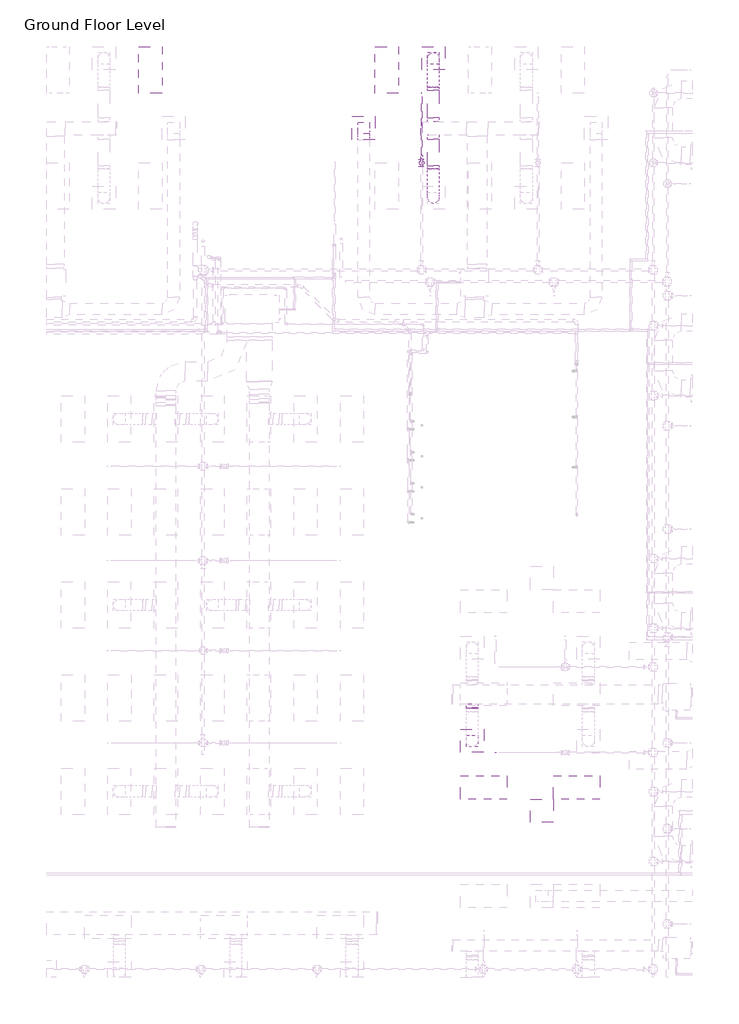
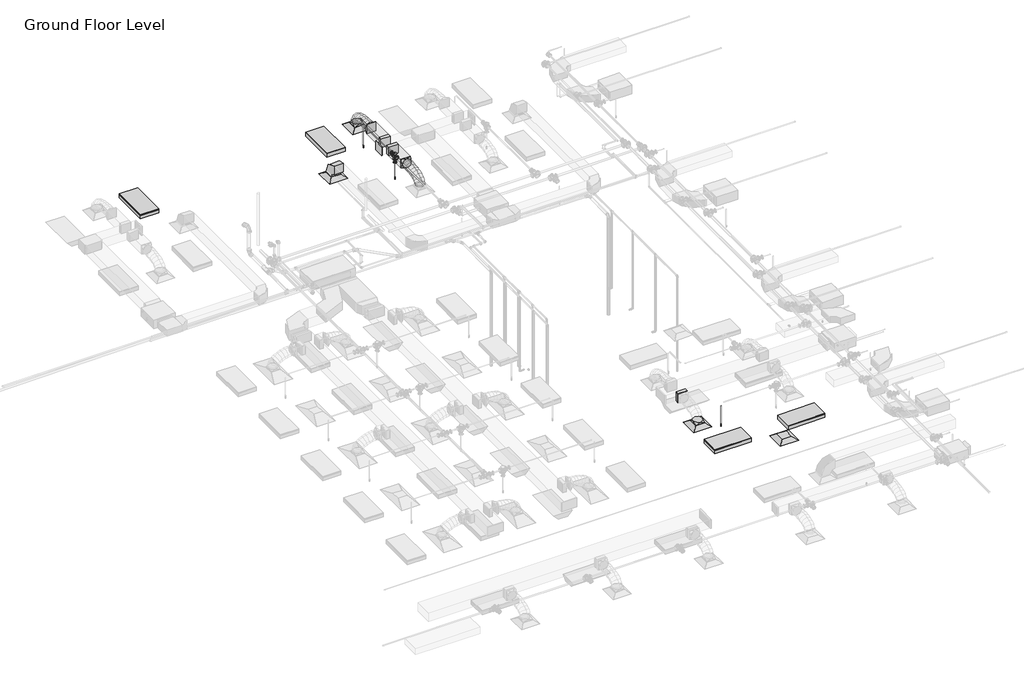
# One storey, part 58 of 74: 9 duct fittings, 6 duct segments, 4 air terminals, 4 light fixtures, 4 pipe segments, 3 fire suppression terminals, 3 pipe fittings.
"""IFC4 building model written with IfcOpenShell, lengths in millimetres."""

from ifc_helpers import new_model, si_unit, point, frame, frame_2d, origin, place, context, project, spatial, polyline, circle_curve, ellipse_curve, trimmed, segment, composite_curve, outline, extrude, transform, mapped, element, save
from ifc_brep_helpers import plane_surface, cylinder_surface, advanced_brep
from components import m_return_diffuser_600_x_600_face_300_x_300_connection_ff221211, m_rectangular_elbow_radius_1_w_618da153, m_rectangular_endcap_standard_eed78c44, m_rectangular_takeoff_standard_cb0ccb98, m_rectangular_takeoff_standard_2be5eba1, m_rectangular_to_round_transition_angle_45_degree_641efff0, m_sprinkler_dry_pendent_hosted_15_mm_dry_pendent_9bda8e11, m_troffer_light_parabolic_rectangular1_0600x1200mm_4_lamp_86473d4a, m_reducer_flanged_cs_class_150_standard_d42b2106, m_tee_round_base_flanged_cs_class_150_standard_7e5987a1

model = new_model("IFC4")

# Units and contexts
model_context = context("Model", 3, world=origin())
ifc_project = project(units=[si_unit("LENGTHUNIT", "METRE", prefix="MILLI")], contexts=[model_context])

# Site, building, storey
site = spatial("IfcSite", under=ifc_project)
building = spatial("IfcBuilding", under=site)
storey = spatial("IfcBuildingStorey", under=building, Name="Ground Floor Level", Elevation=900.0)

# Air terminals
placement = place(None, origin())
m_return_diffuser_600_x_600_face_300_x_300_connection_shape = m_return_diffuser_600_x_600_face_300_x_300_connection_ff221211(model_context)
element("IfcAirTerminal", 1, ObjectType="M_Return Diffuser : 600 x 600 Face 300 x 300 Connection", at=placement, inside=storey, context=model_context, shape_type="MappedRepresentation", body=[
    mapped(m_return_diffuser_600_x_600_face_300_x_300_connection_shape, transform((-1837.2327605, 18735.2153534, 3650.0), x_axis=(1.0, 0.0, 0.0), y_axis=(0.0, 1.0, 0.0), z_axis=(0.0, 0.0, 1.0))),
])
element("IfcAirTerminal", 2, ObjectType="M_Return Diffuser : 600 x 600 Face 300 x 300 Connection", at=placement, inside=storey, context=model_context, shape_type="MappedRepresentation", body=[
    mapped(m_return_diffuser_600_x_600_face_300_x_300_connection_shape, transform((2762.7672395, 1135.2153534, 3650.0), x_axis=(1.0, 0.0, 0.0), y_axis=(0.0, 1.0, 0.0), z_axis=(0.0, 0.0, 1.0))),
])
element("IfcAirTerminal", 3, ObjectType="M_Supply Diffuser : 600 x 600 Face 300 x 300 Connection", at=placement, inside=storey, context=model_context, shape_type="MappedRepresentation", body=[
    mapped(m_return_diffuser_600_x_600_face_300_x_300_connection_shape, transform((-37.2327605, 20535.2153534, 3650.0), x_axis=(1.0, 0.0, 0.0), y_axis=(0.0, 1.0, 0.0), z_axis=(0.0, 0.0, 1.0))),
])
element("IfcAirTerminal", 4, ObjectType="M_Supply Diffuser : 600 x 600 Face 300 x 300 Connection", at=placement, inside=storey, context=model_context, shape_type="MappedRepresentation", body=[
    mapped(m_return_diffuser_600_x_600_face_300_x_300_connection_shape, transform((962.7672395, 2935.2153534, 3650.0), x_axis=(1.0, 0.0, 0.0), y_axis=(0.0, 1.0, 0.0), z_axis=(0.0, 0.0, 1.0))),
])

# Duct fittings
m_rectangular_elbow_radius_1_w_shape = m_rectangular_elbow_radius_1_w_618da153(model_context)
element("IfcDuctFitting", 5, ObjectType="M_Rectangular Elbow - Radius : 1 W", at=placement, inside=storey, context=model_context, shape_type="MappedRepresentation", body=[
    mapped(m_rectangular_elbow_radius_1_w_shape, transform((-1837.2327605, 18735.2153534, 4075.2872564), x_axis=(0.0, 0.0, 1.0), y_axis=(0.0, -1.0, 0.0), z_axis=(1.0, 0.0, 0.0))),
])
m_rectangular_endcap_standard_shape = m_rectangular_endcap_standard_eed78c44(model_context)
element("IfcDuctFitting", 6, ObjectType="M_Rectangular Endcap : Standard", at=placement, inside=storey, context=model_context, shape_type="MappedRepresentation", body=[
    mapped(m_rectangular_endcap_standard_shape, transform((-337.2326293, 18724.6783949, 4099.9983101), x_axis=(-0.9999999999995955, 0.0, -8.994654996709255e-07), y_axis=(0.0, -1.0000000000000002, 0.0), z_axis=(-8.994654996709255e-07, 0.0, 0.9999999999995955))),
])
m_rectangular_takeoff_standard_shape = m_rectangular_takeoff_standard_cb0ccb98(model_context)
element("IfcDuctFitting", 7, ObjectType="M_Rectangular Takeoff : Standard", at=placement, inside=storey, context=model_context, shape_type="MappedRepresentation", body=[
    mapped(m_rectangular_takeoff_standard_shape, transform((-37.2327605, 18549.6783949, 4099.9985799), x_axis=(0.0, -1.0, 0.0), y_axis=(-1.0, 0.0, 0.0), z_axis=(0.0, 0.0, -1.0))),
])
element("IfcDuctFitting", 8, ObjectType="M_Rectangular Takeoff : Standard", at=placement, inside=storey, context=model_context, shape_type="MappedRepresentation", body=[
    mapped(m_rectangular_takeoff_standard_shape, transform((962.7672395, 3885.0199167, 4099.9886676), x_axis=(0.0, -1.0, 0.0), y_axis=(-1.0, 0.0, 0.0), z_axis=(0.0, 0.0, -1.0))),
])
m_rectangular_takeoff_standard_2_shape = m_rectangular_takeoff_standard_2be5eba1(model_context)
element("IfcDuctFitting", 9, ObjectType="M_Rectangular Takeoff : Standard", at=placement, inside=storey, context=model_context, shape_type="MappedRepresentation", body=[
    mapped(m_rectangular_takeoff_standard_2_shape, transform((-37.2327605, 18899.6783949, 4099.9985799), x_axis=(0.0, 1.0, 0.0), y_axis=(1.0, 0.0, 0.0), z_axis=(0.0, 0.0, -1.0))),
])
m_rectangular_to_round_transition_angle_45_degree_shape = m_rectangular_to_round_transition_angle_45_degree_641efff0(model_context)
element("IfcDuctFitting", 10, ObjectType="M_Rectangular to Round Transition - Angle : 45 Degree", at=placement, inside=storey, context=model_context, shape_type="MappedRepresentation", body=[
    mapped(m_rectangular_to_round_transition_angle_45_degree_shape, transform((-37.2327605, 20535.2153534, 3751.6), x_axis=(0.0, 0.0, 1.0), y_axis=(-1.0, 0.0, 0.0), z_axis=(0.0, -1.0, 0.0))),
])
element("IfcDuctFitting", 11, ObjectType="M_Rectangular to Round Transition - Angle : 45 Degree", at=placement, inside=storey, context=model_context, shape_type="MappedRepresentation", body=[
    mapped(m_rectangular_to_round_transition_angle_45_degree_shape, transform((-37.2327605, 19707.878002, 4099.9985799), x_axis=(0.0, 1.0, 0.0), y_axis=(-1.0, 0.0, 0.0), z_axis=(0.0, 0.0, 1.0))),
])
element("IfcDuctFitting", 12, ObjectType="M_Rectangular to Round Transition - Angle : 45 Degree", at=placement, inside=storey, context=model_context, shape_type="MappedRepresentation", body=[
    mapped(m_rectangular_to_round_transition_angle_45_degree_shape, transform((-37.2327605, 17762.5527048, 4099.9985799), x_axis=(0.0, -1.0, 0.0), y_axis=(1.0, 0.0, 0.0), z_axis=(0.0, 0.0, 1.0))),
])
element("IfcDuctFitting", 13, ObjectType="M_Rectangular to Round Transition - Angle : 45 Degree", at=placement, inside=storey, context=model_context, shape_type="MappedRepresentation", body=[
    mapped(m_rectangular_to_round_transition_angle_45_degree_shape, transform((962.7672395, 2935.2153534, 3751.6), x_axis=(0.0, 0.0, 1.0), y_axis=(-1.0, 0.0, 0.0), z_axis=(0.0, -1.0, 0.0))),
])

# Duct segments
element("IfcDuctSegment", 14, ObjectType="Flex - Round", at=placement, inside=storey, context=model_context, shape_type="AdvancedBrep", body=[
    advanced_brep(
    [(112.7672395, 20535.2153534, 3826.6), (-37.2327605, 20385.2153534, 3826.6), (-187.2327605, 20535.2153534, 3826.6), (-37.2327605, 20685.2153534, 3826.6), (112.7672395, 20535.2153534, 3857.9377711), (-37.2327605, 20385.2153534, 3832.2944759), (-187.2327605, 20535.2153534, 3857.9377711), (-37.2327605, 20685.2153534, 3883.5810662), (112.7672395, 20518.1993815, 3906.2505987), (-37.2327605, 20384.461492, 3834.4348871), (-187.2327605, 20518.1993815, 3906.2505987), (-37.2327605, 20651.937271, 3978.0663103), (112.7672395, 20471.0153939, 3968.7112481), (-37.2327605, 20366.8097377, 3857.8017132), (-187.2327605, 20471.0153939, 3968.7112481), (-37.2327605, 20575.2210501, 4079.620783), (112.7672395, 20399.4592831, 4016.0698216), (-37.2327605, 20330.5256105, 3881.8159377), (-187.2327605, 20399.4592831, 4016.0698216), (-37.2327605, 20468.3929557, 4150.3237055), (112.7672395, 20309.3269414, 4050.4141926), (-37.2327605, 20265.7665969, 3906.491959), (-187.2327605, 20309.3269414, 4050.4141926), (-37.2327605, 20352.8872859, 4194.3364261), (112.7672395, 20206.4142611, 4073.8322345), (-37.2327605, 20179.853734, 3926.0416493), (-187.2327605, 20206.4142611, 4073.8322345), (-37.2327605, 20232.9747882, 4221.6228196), (112.7672395, 20096.5171347, 4088.4118207), (-37.2327605, 20081.3665773, 3939.1075232), (-187.2327605, 20096.5171347, 4088.4118207), (-37.2327605, 20111.6676921, 4237.7161183), (112.7672395, 19985.4314545, 4096.2408248), (-37.2327605, 19977.9263947, 3946.3976942), (-187.2327605, 19985.4314545, 4096.2408248), (-37.2327605, 19992.9365143, 4246.0839553), (112.7672395, 19878.9531128, 4099.40712), (-37.2327605, 19876.2617774, 3949.4208461), (-187.2327605, 19878.9531128, 4099.40712), (-37.2327605, 19881.6444482, 4249.393394), (112.7672395, 19782.878002, 4099.9985799), (-37.2327605, 19783.8014181, 4249.9957376), (-187.2327605, 19782.878002, 4099.9985799), (-37.2327605, 19781.9545859, 3950.0014223)],
    [
        (0, 1, circle_curve(frame((-37.2327605, 20535.2153534, 3826.6), z_axis=(0.0, 0.0, -1.0), x_axis=(1.0, 0.0, 0.0)), 150.0)),
        (1, 2, circle_curve(frame((-37.2327605, 20535.2153534, 3826.6), z_axis=(0.0, 0.0, -1.0), x_axis=(1.0, 0.0, 0.0)), 150.0)),
        (2, 3, circle_curve(frame((-37.2327605, 20535.2153534, 3826.6), z_axis=(0.0, 0.0, -1.0), x_axis=(1.0, 0.0, 0.0)), 150.0)),
        (3, 0, circle_curve(frame((-37.2327605, 20535.2153534, 3826.6), z_axis=(0.0, 0.0, -1.0), x_axis=(1.0, 0.0, 0.0)), 150.0)),
        (0, 4),
        (4, 5, ellipse_curve(frame((-37.2327605, 20535.2153534, 3857.9377711), z_axis=(0.0, 0.1685106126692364, -0.9856998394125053), x_axis=(0.0, -0.9856998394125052, -0.16851061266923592)), 152.1761433, 150.0)),
        (5, 1),
        (5, 6, ellipse_curve(frame((-37.2327605, 20535.2153534, 3857.9377711), z_axis=(0.0, 0.1685106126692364, -0.9856998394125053), x_axis=(0.0, -0.9856998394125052, -0.16851061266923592)), 152.1761433, 150.0)),
        (6, 2),
        (6, 7, ellipse_curve(frame((-37.2327605, 20535.2153534, 3857.9377711), z_axis=(0.0, 0.1685106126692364, -0.9856998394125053), x_axis=(0.0, -0.9856998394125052, -0.16851061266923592)), 152.1761433, 150.0)),
        (7, 3),
        (7, 4, ellipse_curve(frame((-37.2327605, 20535.2153534, 3857.9377711), z_axis=(0.0, 0.1685106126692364, -0.9856998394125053), x_axis=(0.0, -0.9856998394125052, -0.16851061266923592)), 152.1761433, 150.0)),
        (4, 8),
        (8, 9, ellipse_curve(frame((-37.2327605, 20518.1993815, 3906.2505987), z_axis=(0.0, 0.4730934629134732, -0.8810122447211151), x_axis=(0.0, -0.8810122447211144, -0.47309346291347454)), 151.8002619, 150.0)),
        (9, 5),
        (9, 10, ellipse_curve(frame((-37.2327605, 20518.1993815, 3906.2505987), z_axis=(0.0, 0.4730934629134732, -0.8810122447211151), x_axis=(0.0, -0.8810122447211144, -0.47309346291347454)), 151.8002619, 150.0)),
        (10, 6),
        (10, 11, ellipse_curve(frame((-37.2327605, 20518.1993815, 3906.2505987), z_axis=(0.0, 0.4730934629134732, -0.8810122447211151), x_axis=(0.0, -0.8810122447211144, -0.47309346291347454)), 151.8002619, 150.0)),
        (11, 7),
        (11, 8, ellipse_curve(frame((-37.2327605, 20518.1993815, 3906.2505987), z_axis=(0.0, 0.4730934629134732, -0.8810122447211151), x_axis=(0.0, -0.8810122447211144, -0.47309346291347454)), 151.8002619, 150.0)),
        (8, 12),
        (12, 13, ellipse_curve(frame((-37.2327605, 20471.0153939, 3968.7112481), z_axis=(0.0, 0.7287893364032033, -0.6847379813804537), x_axis=(0.0, -0.6847379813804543, -0.7287893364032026)), 152.183257, 150.0)),
        (13, 9),
        (13, 14, ellipse_curve(frame((-37.2327605, 20471.0153939, 3968.7112481), z_axis=(0.0, 0.7287893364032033, -0.6847379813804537), x_axis=(0.0, -0.6847379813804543, -0.7287893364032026)), 152.183257, 150.0)),
        (14, 10),
        (14, 15, ellipse_curve(frame((-37.2327605, 20471.0153939, 3968.7112481), z_axis=(0.0, 0.7287893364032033, -0.6847379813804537), x_axis=(0.0, -0.6847379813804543, -0.7287893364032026)), 152.183257, 150.0)),
        (15, 11),
        (15, 12, ellipse_curve(frame((-37.2327605, 20471.0153939, 3968.7112481), z_axis=(0.0, 0.7287893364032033, -0.6847379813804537), x_axis=(0.0, -0.6847379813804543, -0.7287893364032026)), 152.183257, 150.0)),
        (12, 16),
        (16, 17, ellipse_curve(frame((-37.2327605, 20399.4592831, 4016.0698216), z_axis=(0.0, 0.8895872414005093, -0.4567653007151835), x_axis=(0.0, -0.45676530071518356, -0.8895872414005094)), 150.9170519, 150.0)),
        (17, 13),
        (17, 18, ellipse_curve(frame((-37.2327605, 20399.4592831, 4016.0698216), z_axis=(0.0, 0.8895872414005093, -0.4567653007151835), x_axis=(0.0, -0.45676530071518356, -0.8895872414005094)), 150.9170519, 150.0)),
        (18, 14),
        (18, 19, ellipse_curve(frame((-37.2327605, 20399.4592831, 4016.0698216), z_axis=(0.0, 0.8895872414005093, -0.4567653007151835), x_axis=(0.0, -0.45676530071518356, -0.8895872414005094)), 150.9170519, 150.0)),
        (19, 15),
        (19, 16, ellipse_curve(frame((-37.2327605, 20399.4592831, 4016.0698216), z_axis=(0.0, 0.8895872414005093, -0.4567653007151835), x_axis=(0.0, -0.45676530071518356, -0.8895872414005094)), 150.9170519, 150.0)),
        (16, 20),
        (20, 21, ellipse_curve(frame((-37.2327605, 20309.3269414, 4050.4141926), z_axis=(0.0, 0.9571211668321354, -0.2896878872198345), x_axis=(0.0, -0.2896878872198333, -0.9571211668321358)), 150.3699202, 150.0)),
        (21, 17),
        (21, 22, ellipse_curve(frame((-37.2327605, 20309.3269414, 4050.4141926), z_axis=(0.0, 0.9571211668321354, -0.2896878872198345), x_axis=(0.0, -0.2896878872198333, -0.9571211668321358)), 150.3699202, 150.0)),
        (22, 18),
        (22, 23, ellipse_curve(frame((-37.2327605, 20309.3269414, 4050.4141926), z_axis=(0.0, 0.9571211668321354, -0.2896878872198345), x_axis=(0.0, -0.2896878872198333, -0.9571211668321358)), 150.3699202, 150.0)),
        (23, 19),
        (23, 20, ellipse_curve(frame((-37.2327605, 20309.3269414, 4050.4141926), z_axis=(0.0, 0.9571211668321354, -0.2896878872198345), x_axis=(0.0, -0.2896878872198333, -0.9571211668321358)), 150.3699202, 150.0)),
        (20, 24),
        (24, 25, ellipse_curve(frame((-37.2327605, 20206.4142611, 4073.8322345), z_axis=(0.0, 0.9842317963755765, -0.17688349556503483), x_axis=(0.0, -0.1768834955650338, -0.9842317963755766)), 150.158312, 150.0)),
        (25, 21),
        (25, 26, ellipse_curve(frame((-37.2327605, 20206.4142611, 4073.8322345), z_axis=(0.0, 0.9842317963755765, -0.17688349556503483), x_axis=(0.0, -0.1768834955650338, -0.9842317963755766)), 150.158312, 150.0)),
        (26, 22),
        (26, 27, ellipse_curve(frame((-37.2327605, 20206.4142611, 4073.8322345), z_axis=(0.0, 0.9842317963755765, -0.17688349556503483), x_axis=(0.0, -0.1768834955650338, -0.9842317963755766)), 150.158312, 150.0)),
        (27, 23),
        (27, 24, ellipse_curve(frame((-37.2327605, 20206.4142611, 4073.8322345), z_axis=(0.0, 0.9842317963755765, -0.17688349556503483), x_axis=(0.0, -0.1768834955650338, -0.9842317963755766)), 150.158312, 150.0)),
        (24, 28),
        (28, 29, ellipse_curve(frame((-37.2327605, 20096.5171347, 4088.4118207), z_axis=(0.0, 0.9948909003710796, -0.10095591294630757), x_axis=(0.0, -0.10095591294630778, -0.9948909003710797)), 150.0710253, 150.0)),
        (29, 25),
        (29, 30, ellipse_curve(frame((-37.2327605, 20096.5171347, 4088.4118207), z_axis=(0.0, 0.9948909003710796, -0.10095591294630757), x_axis=(0.0, -0.10095591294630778, -0.9948909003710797)), 150.0710253, 150.0)),
        (30, 26),
        (30, 31, ellipse_curve(frame((-37.2327605, 20096.5171347, 4088.4118207), z_axis=(0.0, 0.9948909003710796, -0.10095591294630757), x_axis=(0.0, -0.10095591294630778, -0.9948909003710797)), 150.0710253, 150.0)),
        (31, 27),
        (31, 28, ellipse_curve(frame((-37.2327605, 20096.5171347, 4088.4118207), z_axis=(0.0, 0.9948909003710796, -0.10095591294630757), x_axis=(0.0, -0.10095591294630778, -0.9948909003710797)), 150.0710253, 150.0)),
        (28, 32),
        (32, 33, ellipse_curve(frame((-37.2327605, 19985.4314545, 4096.2408248), z_axis=(0.0, 0.9987480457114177, -0.05002340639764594), x_axis=(0.0, -0.05002340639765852, -0.9987480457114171)), 150.0309624, 150.0)),
        (33, 29),
        (33, 34, ellipse_curve(frame((-37.2327605, 19985.4314545, 4096.2408248), z_axis=(0.0, 0.9987480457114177, -0.05002340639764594), x_axis=(0.0, -0.05002340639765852, -0.9987480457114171)), 150.0309624, 150.0)),
        (34, 30),
        (34, 35, ellipse_curve(frame((-37.2327605, 19985.4314545, 4096.2408248), z_axis=(0.0, 0.9987480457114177, -0.05002340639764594), x_axis=(0.0, -0.05002340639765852, -0.9987480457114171)), 150.0309624, 150.0)),
        (35, 31),
        (35, 32, ellipse_curve(frame((-37.2327605, 19985.4314545, 4096.2408248), z_axis=(0.0, 0.9987480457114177, -0.05002340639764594), x_axis=(0.0, -0.05002340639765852, -0.9987480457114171)), 150.0309624, 150.0)),
        (32, 36),
        (36, 37, ellipse_curve(frame((-37.2327605, 19878.9531128, 4099.40712), z_axis=(0.0, 0.9998390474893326, -0.01794098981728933), x_axis=(0.0, -0.017940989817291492, -0.9998390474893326)), 150.0104185, 150.0)),
        (37, 33),
        (37, 38, ellipse_curve(frame((-37.2327605, 19878.9531128, 4099.40712), z_axis=(0.0, 0.9998390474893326, -0.01794098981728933), x_axis=(0.0, -0.017940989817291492, -0.9998390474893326)), 150.0104185, 150.0)),
        (38, 34),
        (38, 39, ellipse_curve(frame((-37.2327605, 19878.9531128, 4099.40712), z_axis=(0.0, 0.9998390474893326, -0.01794098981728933), x_axis=(0.0, -0.017940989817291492, -0.9998390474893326)), 150.0104185, 150.0)),
        (39, 35),
        (39, 36, ellipse_curve(frame((-37.2327605, 19878.9531128, 4099.40712), z_axis=(0.0, 0.9998390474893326, -0.01794098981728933), x_axis=(0.0, -0.017940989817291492, -0.9998390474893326)), 150.0104185, 150.0)),
        (40, 41, circle_curve(frame((-37.2327605, 19782.878002, 4099.9985799), z_axis=(0.0, -0.9999810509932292, 0.006156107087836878), x_axis=(1.0, 0.0, 0.0)), 150.0)),
        (41, 42, circle_curve(frame((-37.2327605, 19782.878002, 4099.9985799), z_axis=(0.0, -0.9999810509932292, 0.006156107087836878), x_axis=(1.0, 0.0, 0.0)), 150.0)),
        (42, 43, circle_curve(frame((-37.2327605, 19782.878002, 4099.9985799), z_axis=(0.0, -0.9999810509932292, 0.006156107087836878), x_axis=(1.0, 0.0, 0.0)), 150.0)),
        (43, 40, circle_curve(frame((-37.2327605, 19782.878002, 4099.9985799), z_axis=(0.0, -0.9999810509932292, 0.006156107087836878), x_axis=(1.0, 0.0, 0.0)), 150.0)),
        (36, 40),
        (43, 37),
        (42, 38),
        (41, 39),
    ],
    [
        plane_surface(frame((-37.2327605, 20385.2153534, 3826.6), z_axis=(0.0, 0.0, -1.0), x_axis=(1.0, 0.0, 0.0))),
        cylinder_surface(frame((-37.2327605, 20535.2153534, 3826.6), z_axis=(0.0, 0.0, -1.0), x_axis=(1.0, 0.0, 0.0)), 150.0),
        cylinder_surface(frame((-37.2327605, 20535.2153534, 3857.9377711), z_axis=(0.0, 0.33220176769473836, -0.9432083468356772), x_axis=(1.0, 0.0, 0.0)), 150.0),
        cylinder_surface(frame((-37.2327605, 20518.1993815, 3906.2505987), z_axis=(0.0, 0.6027639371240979, -0.7979195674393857), x_axis=(1.0, 0.0, 0.0)), 150.0),
        cylinder_surface(frame((-37.2327605, 20471.0153939, 3968.7112481), z_axis=(0.0, 0.8339039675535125, -0.551909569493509), x_axis=(1.0, 0.0, 0.0)), 150.0),
        cylinder_surface(frame((-37.2327605, 20399.4592831, 4016.0698216), z_axis=(0.0, 0.934459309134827, -0.35606993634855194), x_axis=(1.0, 0.0, 0.0)), 150.0),
        cylinder_surface(frame((-37.2327605, 20309.3269414, 4050.4141926), z_axis=(0.0, 0.9750738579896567, -0.22188053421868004), x_axis=(1.0, 0.0, 0.0)), 150.0),
        cylinder_surface(frame((-37.2327605, 20206.4142611, 4073.8322345), z_axis=(0.0, 0.9913143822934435, -0.13151348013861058), x_axis=(1.0, 0.0, 0.0)), 150.0),
        cylinder_surface(frame((-37.2327605, 20096.5171347, 4088.4118207), z_axis=(0.0, 0.997525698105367, -0.07030278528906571), x_axis=(1.0, 0.0, 0.0)), 150.0),
        cylinder_surface(frame((-37.2327605, 19985.4314545, 4096.2408248), z_axis=(0.0, 0.9995581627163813, -0.029723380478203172), x_axis=(1.0, 0.0, 0.0)), 150.0),
        plane_surface(frame((-37.2327605, 19781.9545859, 3950.0014223), z_axis=(0.0, -0.9999810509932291, 0.006156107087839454), x_axis=(1.0, 0.0, 0.0))),
        cylinder_surface(frame((-37.2327605, 19878.9531128, 4099.40712), z_axis=(0.0, 0.9999810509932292, -0.006156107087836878), x_axis=(1.0, 0.0, 0.0)), 150.0),
    ],
    [
        (0, [[1, 2, 3, 4]]),
        (1, [[-1, 5, 6, 7]]),
        (1, [[-2, -7, 8, 9]]),
        (1, [[-3, -9, 10, 11]]),
        (1, [[-4, -11, 12, -5]]),
        (2, [[-6, 13, 14, 15]]),
        (2, [[-8, -15, 16, 17]]),
        (2, [[-10, -17, 18, 19]]),
        (2, [[-12, -19, 20, -13]]),
        (3, [[-14, 21, 22, 23]]),
        (3, [[-16, -23, 24, 25]]),
        (3, [[-18, -25, 26, 27]]),
        (3, [[-20, -27, 28, -21]]),
        (4, [[-22, 29, 30, 31]]),
        (4, [[-24, -31, 32, 33]]),
        (4, [[-26, -33, 34, 35]]),
        (4, [[-28, -35, 36, -29]]),
        (5, [[-30, 37, 38, 39]]),
        (5, [[-32, -39, 40, 41]]),
        (5, [[-34, -41, 42, 43]]),
        (5, [[-36, -43, 44, -37]]),
        (6, [[-38, 45, 46, 47]]),
        (6, [[-40, -47, 48, 49]]),
        (6, [[-42, -49, 50, 51]]),
        (6, [[-44, -51, 52, -45]]),
        (7, [[-46, 53, 54, 55]]),
        (7, [[-48, -55, 56, 57]]),
        (7, [[-50, -57, 58, 59]]),
        (7, [[-52, -59, 60, -53]]),
        (8, [[-54, 61, 62, 63]]),
        (8, [[-56, -63, 64, 65]]),
        (8, [[-58, -65, 66, 67]]),
        (8, [[-60, -67, 68, -61]]),
        (9, [[-62, 69, 70, 71]]),
        (9, [[-64, -71, 72, 73]]),
        (9, [[-66, -73, 74, 75]]),
        (9, [[-68, -75, 76, -69]]),
        (10, [[77, 78, 79, 80]]),
        (11, [[-70, 81, -80, 82]]),
        (11, [[-72, -82, -79, 83]]),
        (11, [[-74, -83, -78, 84]]),
        (11, [[-76, -84, -77, -81]]),
    ],
),
])
element("IfcDuctSegment", 15, ObjectType="Flex - Round", at=placement, inside=storey, context=model_context, shape_type="AdvancedBrep", body=[
    advanced_brep(
    [(112.7672395, 16935.2153534, 3826.6), (-37.2327605, 16785.2153534, 3826.6), (-187.2327605, 16935.2153534, 3826.6), (-37.2327605, 17085.2153534, 3826.6), (112.7672395, 16935.2153534, 3857.9377711), (-37.2327605, 16785.2153534, 3883.5810662), (-187.2327605, 16935.2153534, 3857.9377711), (-37.2327605, 17085.2153534, 3832.2944759), (112.7672395, 16952.2313253, 3906.2505987), (-37.2327605, 16818.4934358, 3978.0663103), (-187.2327605, 16952.2313253, 3906.2505987), (-37.2327605, 17085.9692148, 3834.4348871), (112.7672395, 16999.4153129, 3968.7112481), (-37.2327605, 16895.2096567, 4079.620783), (-187.2327605, 16999.4153129, 3968.7112481), (-37.2327605, 17103.620969, 3857.8017132), (112.7672395, 17070.9714237, 4016.0698216), (-37.2327605, 17002.0377511, 4150.3237055), (-187.2327605, 17070.9714237, 4016.0698216), (-37.2327605, 17139.9050963, 3881.8159377), (112.7672395, 17161.1037654, 4050.4141926), (-37.2327605, 17117.5434209, 4194.3364261), (-187.2327605, 17161.1037654, 4050.4141926), (-37.2327605, 17204.6641099, 3906.491959), (112.7672395, 17264.0164456, 4073.8322345), (-37.2327605, 17237.4559185, 4221.6228196), (-187.2327605, 17264.0164456, 4073.8322345), (-37.2327605, 17290.5769728, 3926.0416493), (112.7672395, 17373.9135721, 4088.4118207), (-37.2327605, 17358.7630147, 4237.7161183), (-187.2327605, 17373.9135721, 4088.4118207), (-37.2327605, 17389.0641294, 3939.1075232), (112.7672395, 17484.9992523, 4096.2408248), (-37.2327605, 17477.4941925, 4246.0839553), (-187.2327605, 17484.9992523, 4096.2408248), (-37.2327605, 17492.5043121, 3946.3976942), (112.7672395, 17591.477594, 4099.40712), (-37.2327605, 17588.7862586, 4249.393394), (-187.2327605, 17591.477594, 4099.40712), (-37.2327605, 17594.1689294, 3949.4208461), (112.7672395, 17687.5527048, 4099.9985799), (-37.2327605, 17688.4761208, 3950.0014223), (-187.2327605, 17687.5527048, 4099.9985799), (-37.2327605, 17686.6292887, 4249.9957376)],
    [
        (0, 1, circle_curve(frame((-37.2327605, 16935.2153534, 3826.6), z_axis=(0.0, 0.0, -1.0), x_axis=(1.0, 0.0, 0.0)), 150.0)),
        (1, 2, circle_curve(frame((-37.2327605, 16935.2153534, 3826.6), z_axis=(0.0, 0.0, -1.0), x_axis=(1.0, 0.0, 0.0)), 150.0)),
        (2, 3, circle_curve(frame((-37.2327605, 16935.2153534, 3826.6), z_axis=(0.0, 0.0, -1.0), x_axis=(1.0, 0.0, 0.0)), 150.0)),
        (3, 0, circle_curve(frame((-37.2327605, 16935.2153534, 3826.6), z_axis=(0.0, 0.0, -1.0), x_axis=(1.0, 0.0, 0.0)), 150.0)),
        (0, 4),
        (4, 5, ellipse_curve(frame((-37.2327605, 16935.2153534, 3857.9377711), z_axis=(0.0, -0.1685106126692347, -0.9856998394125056), x_axis=(0.0, 0.9856998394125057, -0.16851061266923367)), 152.1761433, 150.0)),
        (5, 1),
        (5, 6, ellipse_curve(frame((-37.2327605, 16935.2153534, 3857.9377711), z_axis=(0.0, -0.1685106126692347, -0.9856998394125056), x_axis=(0.0, 0.9856998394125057, -0.16851061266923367)), 152.1761433, 150.0)),
        (6, 2),
        (6, 7, ellipse_curve(frame((-37.2327605, 16935.2153534, 3857.9377711), z_axis=(0.0, -0.1685106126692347, -0.9856998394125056), x_axis=(0.0, 0.9856998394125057, -0.16851061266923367)), 152.1761433, 150.0)),
        (7, 3),
        (7, 4, ellipse_curve(frame((-37.2327605, 16935.2153534, 3857.9377711), z_axis=(0.0, -0.1685106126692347, -0.9856998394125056), x_axis=(0.0, 0.9856998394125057, -0.16851061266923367)), 152.1761433, 150.0)),
        (4, 8),
        (8, 9, ellipse_curve(frame((-37.2327605, 16952.2313253, 3906.2505987), z_axis=(0.0, -0.4730934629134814, -0.8810122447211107), x_axis=(0.0, 0.8810122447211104, -0.473093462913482)), 151.8002619, 150.0)),
        (9, 5),
        (9, 10, ellipse_curve(frame((-37.2327605, 16952.2313253, 3906.2505987), z_axis=(0.0, -0.4730934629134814, -0.8810122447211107), x_axis=(0.0, 0.8810122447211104, -0.473093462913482)), 151.8002619, 150.0)),
        (10, 6),
        (10, 11, ellipse_curve(frame((-37.2327605, 16952.2313253, 3906.2505987), z_axis=(0.0, -0.4730934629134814, -0.8810122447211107), x_axis=(0.0, 0.8810122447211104, -0.473093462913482)), 151.8002619, 150.0)),
        (11, 7),
        (11, 8, ellipse_curve(frame((-37.2327605, 16952.2313253, 3906.2505987), z_axis=(0.0, -0.4730934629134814, -0.8810122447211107), x_axis=(0.0, 0.8810122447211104, -0.473093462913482)), 151.8002619, 150.0)),
        (8, 12),
        (12, 13, ellipse_curve(frame((-37.2327605, 16999.4153129, 3968.7112481), z_axis=(0.0, -0.728789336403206, -0.6847379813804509), x_axis=(0.0, 0.6847379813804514, -0.7287893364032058)), 152.183257, 150.0)),
        (13, 9),
        (13, 14, ellipse_curve(frame((-37.2327605, 16999.4153129, 3968.7112481), z_axis=(0.0, -0.728789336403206, -0.6847379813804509), x_axis=(0.0, 0.6847379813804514, -0.7287893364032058)), 152.183257, 150.0)),
        (14, 10),
        (14, 15, ellipse_curve(frame((-37.2327605, 16999.4153129, 3968.7112481), z_axis=(0.0, -0.728789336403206, -0.6847379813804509), x_axis=(0.0, 0.6847379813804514, -0.7287893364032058)), 152.183257, 150.0)),
        (15, 11),
        (15, 12, ellipse_curve(frame((-37.2327605, 16999.4153129, 3968.7112481), z_axis=(0.0, -0.728789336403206, -0.6847379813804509), x_axis=(0.0, 0.6847379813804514, -0.7287893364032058)), 152.183257, 150.0)),
        (12, 16),
        (16, 17, ellipse_curve(frame((-37.2327605, 17070.9714237, 4016.0698216), z_axis=(0.0, -0.8895872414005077, -0.45676530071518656), x_axis=(0.0, 0.456765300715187, -0.8895872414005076)), 150.9170519, 150.0)),
        (17, 13),
        (17, 18, ellipse_curve(frame((-37.2327605, 17070.9714237, 4016.0698216), z_axis=(0.0, -0.8895872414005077, -0.45676530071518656), x_axis=(0.0, 0.456765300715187, -0.8895872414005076)), 150.9170519, 150.0)),
        (18, 14),
        (18, 19, ellipse_curve(frame((-37.2327605, 17070.9714237, 4016.0698216), z_axis=(0.0, -0.8895872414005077, -0.45676530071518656), x_axis=(0.0, 0.456765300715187, -0.8895872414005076)), 150.9170519, 150.0)),
        (19, 15),
        (19, 16, ellipse_curve(frame((-37.2327605, 17070.9714237, 4016.0698216), z_axis=(0.0, -0.8895872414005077, -0.45676530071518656), x_axis=(0.0, 0.456765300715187, -0.8895872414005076)), 150.9170519, 150.0)),
        (16, 20),
        (20, 21, ellipse_curve(frame((-37.2327605, 17161.1037654, 4050.4141926), z_axis=(0.0, -0.9571211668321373, -0.2896878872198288), x_axis=(0.0, 0.28968788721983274, -0.9571211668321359)), 150.3699202, 150.0)),
        (21, 17),
        (21, 22, ellipse_curve(frame((-37.2327605, 17161.1037654, 4050.4141926), z_axis=(0.0, -0.9571211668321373, -0.2896878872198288), x_axis=(0.0, 0.28968788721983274, -0.9571211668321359)), 150.3699202, 150.0)),
        (22, 18),
        (22, 23, ellipse_curve(frame((-37.2327605, 17161.1037654, 4050.4141926), z_axis=(0.0, -0.9571211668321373, -0.2896878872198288), x_axis=(0.0, 0.28968788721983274, -0.9571211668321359)), 150.3699202, 150.0)),
        (23, 19),
        (23, 20, ellipse_curve(frame((-37.2327605, 17161.1037654, 4050.4141926), z_axis=(0.0, -0.9571211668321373, -0.2896878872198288), x_axis=(0.0, 0.28968788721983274, -0.9571211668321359)), 150.3699202, 150.0)),
        (20, 24),
        (24, 25, ellipse_curve(frame((-37.2327605, 17264.0164456, 4073.8322345), z_axis=(0.0, -0.9842317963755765, -0.17688349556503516), x_axis=(0.0, 0.1768834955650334, -0.9842317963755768)), 150.158312, 150.0)),
        (25, 21),
        (25, 26, ellipse_curve(frame((-37.2327605, 17264.0164456, 4073.8322345), z_axis=(0.0, -0.9842317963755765, -0.17688349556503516), x_axis=(0.0, 0.1768834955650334, -0.9842317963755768)), 150.158312, 150.0)),
        (26, 22),
        (26, 27, ellipse_curve(frame((-37.2327605, 17264.0164456, 4073.8322345), z_axis=(0.0, -0.9842317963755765, -0.17688349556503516), x_axis=(0.0, 0.1768834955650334, -0.9842317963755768)), 150.158312, 150.0)),
        (27, 23),
        (27, 24, ellipse_curve(frame((-37.2327605, 17264.0164456, 4073.8322345), z_axis=(0.0, -0.9842317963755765, -0.17688349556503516), x_axis=(0.0, 0.1768834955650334, -0.9842317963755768)), 150.158312, 150.0)),
        (24, 28),
        (28, 29, ellipse_curve(frame((-37.2327605, 17373.9135721, 4088.4118207), z_axis=(0.0, -0.9948909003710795, -0.10095591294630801), x_axis=(0.0, 0.10095591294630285, -0.9948909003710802)), 150.0710253, 150.0)),
        (29, 25),
        (29, 30, ellipse_curve(frame((-37.2327605, 17373.9135721, 4088.4118207), z_axis=(0.0, -0.9948909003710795, -0.10095591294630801), x_axis=(0.0, 0.10095591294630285, -0.9948909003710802)), 150.0710253, 150.0)),
        (30, 26),
        (30, 31, ellipse_curve(frame((-37.2327605, 17373.9135721, 4088.4118207), z_axis=(0.0, -0.9948909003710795, -0.10095591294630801), x_axis=(0.0, 0.10095591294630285, -0.9948909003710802)), 150.0710253, 150.0)),
        (31, 27),
        (31, 28, ellipse_curve(frame((-37.2327605, 17373.9135721, 4088.4118207), z_axis=(0.0, -0.9948909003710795, -0.10095591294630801), x_axis=(0.0, 0.10095591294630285, -0.9948909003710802)), 150.0710253, 150.0)),
        (28, 32),
        (32, 33, ellipse_curve(frame((-37.2327605, 17484.9992523, 4096.2408248), z_axis=(0.0, -0.998748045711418, -0.05002340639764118), x_axis=(0.0, 0.050023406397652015, -0.9987480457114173)), 150.0309624, 150.0)),
        (33, 29),
        (33, 34, ellipse_curve(frame((-37.2327605, 17484.9992523, 4096.2408248), z_axis=(0.0, -0.998748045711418, -0.05002340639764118), x_axis=(0.0, 0.050023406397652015, -0.9987480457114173)), 150.0309624, 150.0)),
        (34, 30),
        (34, 35, ellipse_curve(frame((-37.2327605, 17484.9992523, 4096.2408248), z_axis=(0.0, -0.998748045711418, -0.05002340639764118), x_axis=(0.0, 0.050023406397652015, -0.9987480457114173)), 150.0309624, 150.0)),
        (35, 31),
        (35, 32, ellipse_curve(frame((-37.2327605, 17484.9992523, 4096.2408248), z_axis=(0.0, -0.998748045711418, -0.05002340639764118), x_axis=(0.0, 0.050023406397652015, -0.9987480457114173)), 150.0309624, 150.0)),
        (32, 36),
        (36, 37, ellipse_curve(frame((-37.2327605, 17591.477594, 4099.40712), z_axis=(0.0, -0.9998390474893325, -0.017940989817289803), x_axis=(0.0, 0.017940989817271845, -0.9998390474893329)), 150.0104185, 150.0)),
        (37, 33),
        (37, 38, ellipse_curve(frame((-37.2327605, 17591.477594, 4099.40712), z_axis=(0.0, -0.9998390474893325, -0.017940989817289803), x_axis=(0.0, 0.017940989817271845, -0.9998390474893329)), 150.0104185, 150.0)),
        (38, 34),
        (38, 39, ellipse_curve(frame((-37.2327605, 17591.477594, 4099.40712), z_axis=(0.0, -0.9998390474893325, -0.017940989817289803), x_axis=(0.0, 0.017940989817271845, -0.9998390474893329)), 150.0104185, 150.0)),
        (39, 35),
        (39, 36, ellipse_curve(frame((-37.2327605, 17591.477594, 4099.40712), z_axis=(0.0, -0.9998390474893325, -0.017940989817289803), x_axis=(0.0, 0.017940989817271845, -0.9998390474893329)), 150.0104185, 150.0)),
        (40, 41, circle_curve(frame((-37.2327605, 17687.5527048, 4099.9985799), z_axis=(0.0, 0.9999810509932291, 0.006156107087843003), x_axis=(1.0, 0.0, 0.0)), 150.0)),
        (41, 42, circle_curve(frame((-37.2327605, 17687.5527048, 4099.9985799), z_axis=(0.0, 0.9999810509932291, 0.006156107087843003), x_axis=(1.0, 0.0, 0.0)), 150.0)),
        (42, 43, circle_curve(frame((-37.2327605, 17687.5527048, 4099.9985799), z_axis=(0.0, 0.9999810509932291, 0.006156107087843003), x_axis=(1.0, 0.0, 0.0)), 150.0)),
        (43, 40, circle_curve(frame((-37.2327605, 17687.5527048, 4099.9985799), z_axis=(0.0, 0.9999810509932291, 0.006156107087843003), x_axis=(1.0, 0.0, 0.0)), 150.0)),
        (36, 40),
        (43, 37),
        (42, 38),
        (41, 39),
    ],
    [
        plane_surface(frame((-37.2327605, 16785.2153534, 3826.6), z_axis=(0.0, 0.0, -1.0), x_axis=(1.0, 0.0, 0.0))),
        cylinder_surface(frame((-37.2327605, 16935.2153534, 3826.6), z_axis=(0.0, 0.0, -1.0), x_axis=(1.0, 0.0, 0.0)), 150.0),
        cylinder_surface(frame((-37.2327605, 16935.2153534, 3857.9377711), z_axis=(0.0, -0.3322017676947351, -0.9432083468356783), x_axis=(1.0, 0.0, 0.0)), 150.0),
        cylinder_surface(frame((-37.2327605, 16952.2313253, 3906.2505987), z_axis=(0.0, -0.6027639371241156, -0.7979195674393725), x_axis=(1.0, 0.0, 0.0)), 150.0),
        cylinder_surface(frame((-37.2327605, 16999.4153129, 3968.7112481), z_axis=(0.0, -0.8339039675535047, -0.551909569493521), x_axis=(1.0, 0.0, 0.0)), 150.0),
        cylinder_surface(frame((-37.2327605, 17070.9714237, 4016.0698216), z_axis=(0.0, -0.9344593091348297, -0.356069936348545), x_axis=(1.0, 0.0, 0.0)), 150.0),
        cylinder_surface(frame((-37.2327605, 17161.1037654, 4050.4141926), z_axis=(0.0, -0.9750738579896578, -0.22188053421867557), x_axis=(1.0, 0.0, 0.0)), 150.0),
        cylinder_surface(frame((-37.2327605, 17264.0164456, 4073.8322345), z_axis=(0.0, -0.9913143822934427, -0.13151348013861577), x_axis=(1.0, 0.0, 0.0)), 150.0),
        cylinder_surface(frame((-37.2327605, 17373.9135721, 4088.4118207), z_axis=(0.0, -0.9975256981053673, -0.07030278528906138), x_axis=(1.0, 0.0, 0.0)), 150.0),
        cylinder_surface(frame((-37.2327605, 17484.9992523, 4096.2408248), z_axis=(0.0, -0.9995581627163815, -0.029723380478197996), x_axis=(1.0, 0.0, 0.0)), 150.0),
        plane_surface(frame((-37.2327605, 17686.6292887, 4249.9957376), z_axis=(0.0, 0.9999810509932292, 0.006156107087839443), x_axis=(1.0, 0.0, 0.0))),
        cylinder_surface(frame((-37.2327605, 17591.477594, 4099.40712), z_axis=(0.0, -0.9999810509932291, -0.006156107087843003), x_axis=(1.0, 0.0, 0.0)), 150.0),
    ],
    [
        (0, [[1, 2, 3, 4]]),
        (1, [[-1, 5, 6, 7]]),
        (1, [[-2, -7, 8, 9]]),
        (1, [[-3, -9, 10, 11]]),
        (1, [[-4, -11, 12, -5]]),
        (2, [[-6, 13, 14, 15]]),
        (2, [[-8, -15, 16, 17]]),
        (2, [[-10, -17, 18, 19]]),
        (2, [[-12, -19, 20, -13]]),
        (3, [[-14, 21, 22, 23]]),
        (3, [[-16, -23, 24, 25]]),
        (3, [[-18, -25, 26, 27]]),
        (3, [[-20, -27, 28, -21]]),
        (4, [[-22, 29, 30, 31]]),
        (4, [[-24, -31, 32, 33]]),
        (4, [[-26, -33, 34, 35]]),
        (4, [[-28, -35, 36, -29]]),
        (5, [[-30, 37, 38, 39]]),
        (5, [[-32, -39, 40, 41]]),
        (5, [[-34, -41, 42, 43]]),
        (5, [[-36, -43, 44, -37]]),
        (6, [[-38, 45, 46, 47]]),
        (6, [[-40, -47, 48, 49]]),
        (6, [[-42, -49, 50, 51]]),
        (6, [[-44, -51, 52, -45]]),
        (7, [[-46, 53, 54, 55]]),
        (7, [[-48, -55, 56, 57]]),
        (7, [[-50, -57, 58, 59]]),
        (7, [[-52, -59, 60, -53]]),
        (8, [[-54, 61, 62, 63]]),
        (8, [[-56, -63, 64, 65]]),
        (8, [[-58, -65, 66, 67]]),
        (8, [[-60, -67, 68, -61]]),
        (9, [[-62, 69, 70, 71]]),
        (9, [[-64, -71, 72, 73]]),
        (9, [[-66, -73, 74, 75]]),
        (9, [[-68, -75, 76, -69]]),
        (10, [[77, 78, 79, 80]]),
        (11, [[-70, 81, -80, 82]]),
        (11, [[-72, -82, -79, 83]]),
        (11, [[-74, -83, -78, 84]]),
        (11, [[-76, -84, -77, -81]]),
    ],
),
])
element("IfcDuctSegment", 16, ObjectType="Radius Elbows / Taps", at=placement, inside=storey, context=model_context, shape_type="SweptSolid", body=[
    extrude(outline(polyline([(-1687.2327605, 18585.2153534), (-1987.2327605, 18585.2153534), (-1987.2327605, 18885.2153534), (-1687.2327605, 18885.2153534), (-1687.2327605, 18585.2153534)])), frame((0.0, 0.0, 3751.6), z_axis=(0.0, 0.0, 1.0), x_axis=(1.0, 0.0, 0.0)), (0.0, 0.0, 1.0), 23.6872564),
])
element("IfcDuctSegment", 17, ObjectType="Radius Elbows / Taps", at=placement, inside=storey, context=model_context, shape_type="SweptSolid", body=[
    extrude(outline(polyline([(112.7672395, 19001.2783949), (-187.2327605, 19001.2783949), (-187.2327605, 19707.878002), (112.7672395, 19707.878002), (112.7672395, 19001.2783949)])), frame((0.0, 0.0, 3949.9985799), z_axis=(0.0, 0.0, 1.0), x_axis=(1.0, 0.0, 0.0)), (0.0, 0.0, 1.0), 300.0),
])
element("IfcDuctSegment", 18, ObjectType="Radius Elbows / Taps", at=placement, inside=storey, context=model_context, shape_type="SweptSolid", body=[
    extrude(outline(polyline([(-187.2327605, 18448.0783949), (112.7672395, 18448.0783949), (112.7672395, 17762.5527048), (-187.2327605, 17762.5527048), (-187.2327605, 18448.0783949)])), frame((0.0, 0.0, 3949.9985799), z_axis=(0.0, 0.0, 1.0), x_axis=(1.0, 0.0, 0.0)), (0.0, 0.0, 1.0), 300.0),
])
element("IfcDuctSegment", 19, ObjectType="Radius Elbows / Taps", at=placement, inside=storey, context=model_context, shape_type="SweptSolid", body=[
    extrude(outline(polyline([(812.7672395, 3783.4199167), (1112.7672395, 3783.4199167), (1112.7672395, 3762.562617), (812.7672395, 3762.562617), (812.7672395, 3783.4199167)])), frame((0.0, 0.0, 3949.9886676), z_axis=(0.0, 0.0, 1.0), x_axis=(1.0, 0.0, 0.0)), (0.0, 0.0, 1.0), 300.0),
])

# Fire suppression terminals
m_sprinkler_dry_pendent_hosted_15_mm_dry_pendent_shape = m_sprinkler_dry_pendent_hosted_15_mm_dry_pendent_9bda8e11(model_context)
element("IfcFireSuppressionTerminal", 20, ObjectType="M_Sprinkler - Dry - Pendent - Hosted : 15 mm Dry Pendent", at=placement, inside=storey, context=model_context, shape_type="MappedRepresentation", body=[
    mapped(m_sprinkler_dry_pendent_hosted_15_mm_dry_pendent_shape, transform((-337.2327605, 19635.2153534, 3650.0), x_axis=(1.0, 0.0, 0.0), y_axis=(0.0, -1.0, 0.0), z_axis=(0.0, 0.0, -1.0))),
])
element("IfcFireSuppressionTerminal", 21, ObjectType="M_Sprinkler - Dry - Pendent - Hosted : 15 mm Dry Pendent", at=placement, inside=storey, context=model_context, shape_type="MappedRepresentation", body=[
    mapped(m_sprinkler_dry_pendent_hosted_15_mm_dry_pendent_shape, transform((-337.2327605, 17835.2153534, 3650.0), x_axis=(1.0, 0.0, 0.0), y_axis=(0.0, -1.0, 0.0), z_axis=(0.0, 0.0, -1.0))),
])
element("IfcFireSuppressionTerminal", 22, ObjectType="M_Sprinkler - Dry - Pendent - Hosted : 15 mm Dry Pendent", at=placement, inside=storey, context=model_context, shape_type="MappedRepresentation", body=[
    mapped(m_sprinkler_dry_pendent_hosted_15_mm_dry_pendent_shape, transform((1565.5763283, 2635.2153534, 3650.0), x_axis=(1.0, 0.0, 0.0), y_axis=(0.0, -1.0, 0.0), z_axis=(0.0, 0.0, -1.0))),
])

# Light fixtures
m_troffer_light_parabolic_rectangular1_0600x1200mm_4_lamp_shape = m_troffer_light_parabolic_rectangular1_0600x1200mm_4_lamp_86473d4a(model_context)
element("IfcLightFixture", 23, ObjectType="M_Troffer Light - Parabolic Rectangular1 : 0600x1200mm(4 Lamp) - 277V 2", at=placement, inside=storey, context=model_context, shape_type="MappedRepresentation", body=[
    mapped(m_troffer_light_parabolic_rectangular1_0600x1200mm_4_lamp_shape, transform((-7396.6986926, 20253.918855, 3650.0), x_axis=(0.0, 1.0, 0.0), y_axis=(-1.0, 0.0, 0.0), z_axis=(0.0, 0.0, 1.0))),
])
element("IfcLightFixture", 24, ObjectType="M_Troffer Light - Parabolic Rectangular1 : 0600x1200mm(4 Lamp) - 277V 2", at=placement, inside=storey, context=model_context, shape_type="MappedRepresentation", body=[
    mapped(m_troffer_light_parabolic_rectangular1_0600x1200mm_4_lamp_shape, transform((-1296.6986926, 20253.918855, 3650.0), x_axis=(0.0, 1.0, 0.0), y_axis=(-1.0, 0.0, 0.0), z_axis=(0.0, 0.0, 1.0))),
])
element("IfcLightFixture", 25, ObjectType="M_Troffer Light - Parabolic Rectangular1 : 0600x1200mm(4 Lamp) - 277V 2", at=placement, inside=storey, context=model_context, shape_type="MappedRepresentation", body=[
    mapped(m_troffer_light_parabolic_rectangular1_0600x1200mm_4_lamp_shape, transform((1281.4707411, 1794.6812855, 3650.0), x_axis=(1.0, 0.0, 0.0), y_axis=(0.0, 1.0, 0.0), z_axis=(0.0, 0.0, 1.0))),
])
element("IfcLightFixture", 26, ObjectType="M_Troffer Light - Parabolic Rectangular1 : 0600x1200mm(4 Lamp) - 277V 2", at=placement, inside=storey, context=model_context, shape_type="MappedRepresentation", body=[
    mapped(m_troffer_light_parabolic_rectangular1_0600x1200mm_4_lamp_shape, transform((3681.4707411, 1794.6812855, 3650.0), x_axis=(1.0, 0.0, 0.0), y_axis=(0.0, 1.0, 0.0), z_axis=(0.0, 0.0, 1.0))),
])

# Pipe fittings
m_reducer_flanged_cs_class_150_standard_shape = m_reducer_flanged_cs_class_150_standard_d42b2106(model_context)
element("IfcPipeFitting", 27, ObjectType="M_Reducer - Flanged - CS - Class 150 : Standard", at=placement, inside=storey, context=model_context, shape_type="MappedRepresentation", body=[
    mapped(m_reducer_flanged_cs_class_150_standard_shape, transform((-337.2327605, 17935.9239471, 4360.0), x_axis=(0.0, 1.0, 0.0), y_axis=(-1.0, 0.0, 0.0), z_axis=(0.0, 0.0, 1.0))),
])
element("IfcPipeFitting", 28, ObjectType="M_Reducer - Flanged - CS - Class 150 : Standard", at=placement, inside=storey, context=model_context, shape_type="MappedRepresentation", body=[
    mapped(m_reducer_flanged_cs_class_150_standard_shape, transform((-337.2327605, 17835.2153534, 4259.2914063), x_axis=(0.0, 0.0, -1.0), y_axis=(-1.0, 0.0, 0.0), z_axis=(0.0, 1.0, 0.0))),
])
m_tee_round_base_flanged_cs_class_150_standard_shape = m_tee_round_base_flanged_cs_class_150_standard_7e5987a1(model_context)
element("IfcPipeFitting", 29, ObjectType="M_Tee Round Base - Flanged - CS - Class 150 : Standard", at=placement, inside=storey, context=model_context, shape_type="MappedRepresentation", body=[
    mapped(m_tee_round_base_flanged_cs_class_150_standard_shape, transform((-337.2327605, 17835.2153534, 4360.0), x_axis=(0.0, 1.0, 0.0), y_axis=(0.0, 0.0, 1.0), z_axis=(1.0, 0.0, 0.0))),
])

# Pipe segments
element("IfcPipeSegment", 30, ObjectType="Steel flanged", at=placement, inside=storey, context=model_context, shape_type="SweptSolid", body=[
    extrude(outline(composite_curve([segment(trimmed(circle_curve(frame_2d((-337.2327605, 19635.2153534)), 10.668), [point((-347.9007605, 19635.2153534))], [point((-337.2327605, 19645.8833534))], False, "CARTESIAN"), True, "CONTINUOUS"), segment(trimmed(circle_curve(frame_2d((-337.2327605, 19635.2153534)), 10.668), [point((-337.2327605, 19645.8833534))], [point((-326.5647605, 19635.2153534))], False, "CARTESIAN"), True, "CONTINUOUS"), segment(trimmed(circle_curve(frame_2d((-337.2327605, 19635.2153534)), 10.668), [point((-326.5647605, 19635.2153534))], [point((-337.2327605, 19624.5473534))], False, "CARTESIAN"), True, "CONTINUOUS"), segment(trimmed(circle_curve(frame_2d((-337.2327605, 19635.2153534)), 10.668), [point((-337.2327605, 19624.5473534))], [point((-347.9007605, 19635.2153534))], False, "CARTESIAN"), True, "CONTINUOUS")], self_intersect=False)), frame((0.0, 0.0, 3650.0), z_axis=(0.0, 0.0, 1.0), x_axis=(1.0, 0.0, 0.0)), (0.0, 0.0, 1.0), 616.9914063),
])
element("IfcPipeSegment", 31, ObjectType="Steel flanged", at=placement, inside=storey, context=model_context, shape_type="SweptSolid", body=[
    extrude(outline(composite_curve([segment(trimmed(circle_curve(frame_2d((-337.2327605, 17835.2153534)), 10.668), [point((-347.9007605, 17835.2153534))], [point((-337.2327605, 17845.8833534))], False, "CARTESIAN"), True, "CONTINUOUS"), segment(trimmed(circle_curve(frame_2d((-337.2327605, 17835.2153534)), 10.668), [point((-337.2327605, 17845.8833534))], [point((-326.5647605, 17835.2153534))], False, "CARTESIAN"), True, "CONTINUOUS"), segment(trimmed(circle_curve(frame_2d((-337.2327605, 17835.2153534)), 10.668), [point((-326.5647605, 17835.2153534))], [point((-337.2327605, 17824.5473534))], False, "CARTESIAN"), True, "CONTINUOUS"), segment(trimmed(circle_curve(frame_2d((-337.2327605, 17835.2153534)), 10.668), [point((-337.2327605, 17824.5473534))], [point((-347.9007605, 17835.2153534))], False, "CARTESIAN"), True, "CONTINUOUS")], self_intersect=False)), frame((0.0, 0.0, 3650.0), z_axis=(0.0, 0.0, 1.0), x_axis=(1.0, 0.0, 0.0)), (0.0, 0.0, 1.0), 495.2914062),
])
element("IfcPipeSegment", 32, ObjectType="Steel flanged", at=placement, inside=storey, context=model_context, shape_type="SweptSolid", body=[
    extrude(outline(composite_curve([segment(trimmed(circle_curve(frame_2d((4360.0, -337.2327605)), 10.668), [point((4360.0, -347.9007605))], [point((4349.332, -337.2327605))], False, "CARTESIAN"), True, "CONTINUOUS"), segment(trimmed(circle_curve(frame_2d((4360.0, -337.2327605)), 10.668), [point((4349.332, -337.2327605))], [point((4360.0, -326.5647605))], False, "CARTESIAN"), True, "CONTINUOUS"), segment(trimmed(circle_curve(frame_2d((4360.0, -337.2327605)), 10.668), [point((4360.0, -326.5647605))], [point((4370.668, -337.2327605))], False, "CARTESIAN"), True, "CONTINUOUS"), segment(trimmed(circle_curve(frame_2d((4360.0, -337.2327605)), 10.668), [point((4370.668, -337.2327605))], [point((4360.0, -347.9007605))], False, "CARTESIAN"), True, "CONTINUOUS")], self_intersect=False)), frame((0.0, 18049.9239471, 0.0), z_axis=(0.0, 1.0, 0.0), x_axis=(0.0, 0.0, 1.0)), (0.0, 0.0, 1.0), 1492.2828125),
])
element("IfcPipeSegment", 33, ObjectType="Steel flanged", at=placement, inside=storey, context=model_context, shape_type="SweptSolid", body=[
    extrude(outline(composite_curve([segment(trimmed(circle_curve(frame_2d((1565.5763283, 2635.2153534)), 10.668), [point((1554.9083283, 2635.2153534))], [point((1565.5763283, 2645.8833534))], False, "CARTESIAN"), True, "CONTINUOUS"), segment(trimmed(circle_curve(frame_2d((1565.5763283, 2635.2153534)), 10.668), [point((1565.5763283, 2645.8833534))], [point((1576.2443283, 2635.2153534))], False, "CARTESIAN"), True, "CONTINUOUS"), segment(trimmed(circle_curve(frame_2d((1565.5763283, 2635.2153534)), 10.668), [point((1576.2443283, 2635.2153534))], [point((1565.5763283, 2624.5473534))], False, "CARTESIAN"), True, "CONTINUOUS"), segment(trimmed(circle_curve(frame_2d((1565.5763283, 2635.2153534)), 10.668), [point((1565.5763283, 2624.5473534))], [point((1554.9083283, 2635.2153534))], False, "CARTESIAN"), True, "CONTINUOUS")], self_intersect=False)), frame((0.0, 0.0, 3650.0), z_axis=(0.0, 0.0, 1.0), x_axis=(1.0, 0.0, 0.0)), (0.0, 0.0, 1.0), 616.9914062),
])

save(model, "model.ifc")
